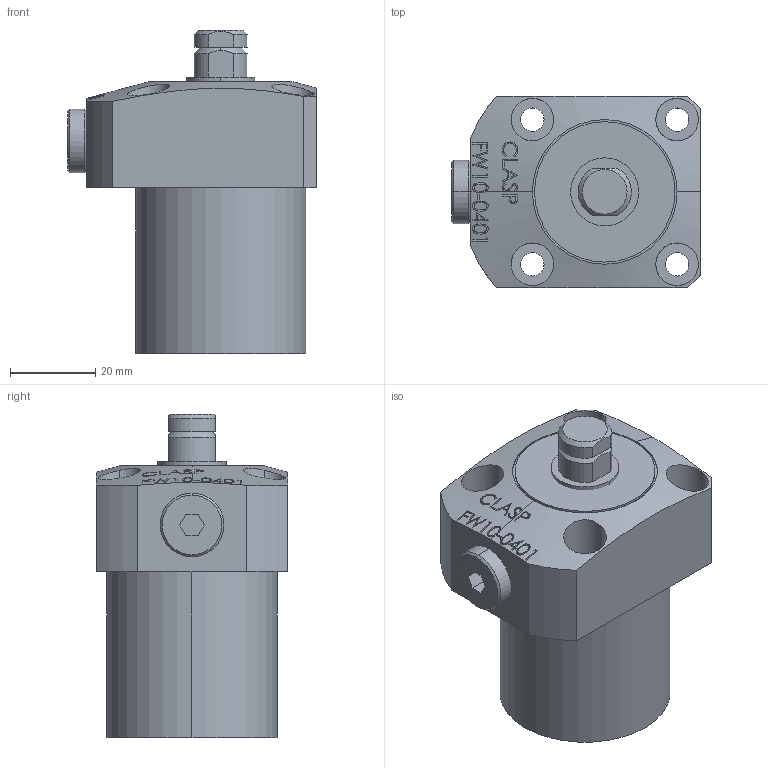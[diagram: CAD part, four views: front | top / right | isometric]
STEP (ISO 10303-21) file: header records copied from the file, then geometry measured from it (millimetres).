
FILE_DESCRIPTION (( 'STEP AP203' ), '1' );
FILE_NAME ('FW10-0401 Work support.STEP', '2022-07-09T17:11:16', ( '' ), ( '' ), 'SwSTEP 2.0', 'SolidWorks 2017', '' );
FILE_SCHEMA (( 'CONFIG_CONTROL_DESIGN' ));
Length unit declared in the file: millimetre
Products named in the file (4): FW10-0401; FW10-0401-part-2; FW10-0401-part-3; FW10-0401 Work support
Assembly tree (3 placements, depth 2):
  FW10-0401 Work support
    FW10-0401
    FW10-0401-part-2
    FW10-0401-part-3
Bounding box: 58.5 x 45 x 76 mm (x, y, z)
Volume: 111992.8 mm3; surface area: 21044.8 mm2
Topology: 3 solids, 3 shells, 249 faces, 628 edges, 413 vertices
Faces by surface type: plane 128, bspline 59, cylinder 40, cone 22
Entity records: 11672 total; most frequent: CARTESIAN_POINT 5813, ORIENTED_EDGE 1252, DIRECTION 871, EDGE_CURVE 626, VERTEX_POINT 413, VECTOR 315, LINE 315, EDGE_LOOP 289
